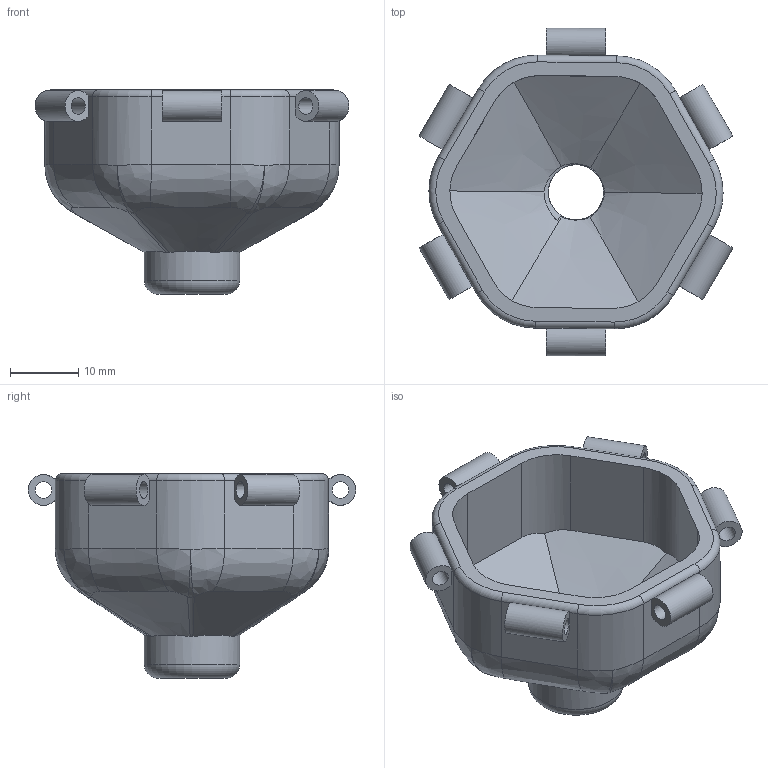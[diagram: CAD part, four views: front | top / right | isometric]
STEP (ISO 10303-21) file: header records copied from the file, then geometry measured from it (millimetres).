
FILE_DESCRIPTION(/* description */ (''),/* implementation_level */ '2;1');
FILE_NAME(/* name */ 'cup FP.step',/* time_stamp */ '2025-06-18T12:19:30+05:30',/* author */ (''),/* organization */ (''),/* preprocessor_version */ 'ST-DEVELOPER v20.1',/* originating_system */ 'Autodesk Translation Framework v14.10.0.0',/* authorisation */ '');
FILE_SCHEMA (('AUTOMOTIVE_DESIGN { 1 0 10303 214 3 1 1 }'));
Length unit declared in the file: millimetre
Products named in the file (2): Untitled; Component1
Assembly tree (1 placements, depth 2):
  Untitled
    Component1
Bounding box: 46.08 x 48.13 x 30 mm (x, y, z)
Volume: 9929.6 mm3; surface area: 7911.5 mm2
Topology: 1 solids, 1 shells, 122 faces, 324 edges, 198 vertices
Faces by surface type: bspline 44, cylinder 37, plane 34, torus 7
Full cylindrical faces by diameter (mm): 2.4 x6, 8.12 x2, 9.94 x1, 14 x1
Entity records: 6203 total; most frequent: CARTESIAN_POINT 3405, ORIENTED_EDGE 636, DIRECTION 478, EDGE_CURVE 318, VERTEX_POINT 198, AXIS2_PLACEMENT_3D 194, EDGE_LOOP 136, FACE_OUTER_BOUND 122
